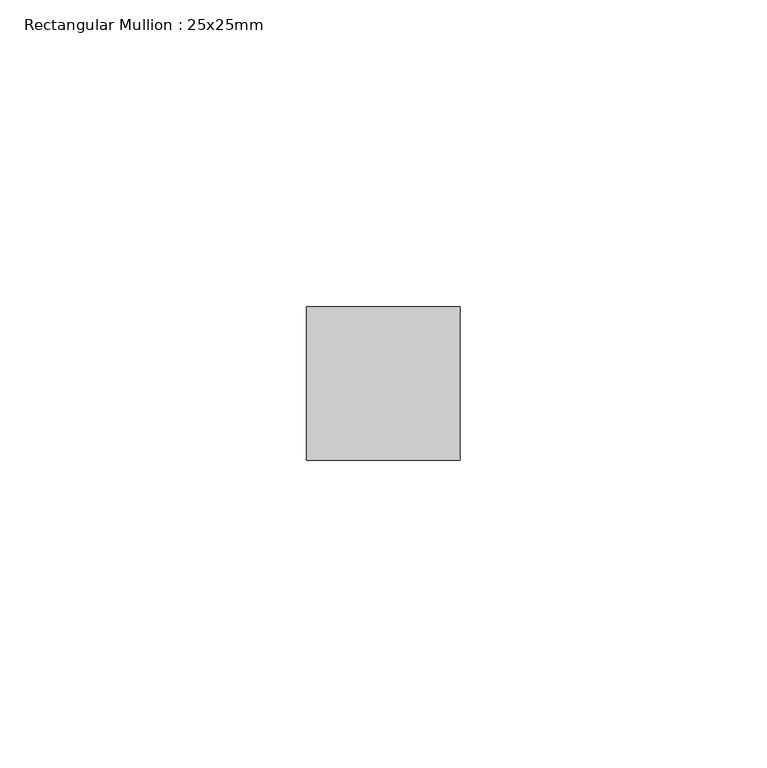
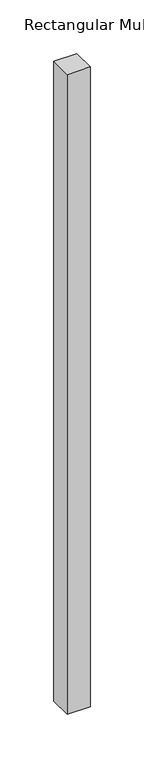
"""IFC4 building model written with IfcOpenShell, lengths in millimetres: member geometry, Rectangular Mullion : 25x25mm."""

from ifc_helpers import new_model, si_unit, frame, origin, place, context, project, spatial, polyline, outline, extrude, source, transform, mapped, element, save


def rectangular_mullion_25x25mm_25fd254f(model_context):
    return source(origin(), model_context, "Body", "SweptSolid", [
        extrude(outline(polyline([(0.0, 0.5), (0.0, -24.5), (-25.0, -24.5), (-25.0, 0.5), (0.0, 0.5)])), frame((0.0, 0.0, -727.4999998), z_axis=(0.0, 0.0, 1.0), x_axis=(1.0, 0.0, 0.0)), (0.0, 0.0, 1.0), 727.4999998),
    ])


if __name__ == "__main__":
    model = new_model("IFC4")
    model_context = context("Model", 3, world=origin())
    ifc_project = project(units=[si_unit("LENGTHUNIT", "METRE", prefix="MILLI")], contexts=[model_context])
    site = spatial("IfcSite", under=ifc_project)
    building = spatial("IfcBuilding", under=site)
    placement = place(None, origin())
    rectangular_mullion_25x25mm_shape = rectangular_mullion_25x25mm_25fd254f(model_context)
    element("IfcMember", 1, ObjectType="Rectangular Mullion : 25x25mm", at=placement, inside=building, context=model_context, shape_type="MappedRepresentation", body=[
        mapped(rectangular_mullion_25x25mm_shape, transform((0.0, 0.0, 0.0), x_axis=(1.0, 0.0, 0.0), y_axis=(0.0, 1.0, 0.0), z_axis=(0.0, 0.0, 1.0))),
    ])
    save(model, "model.ifc")
